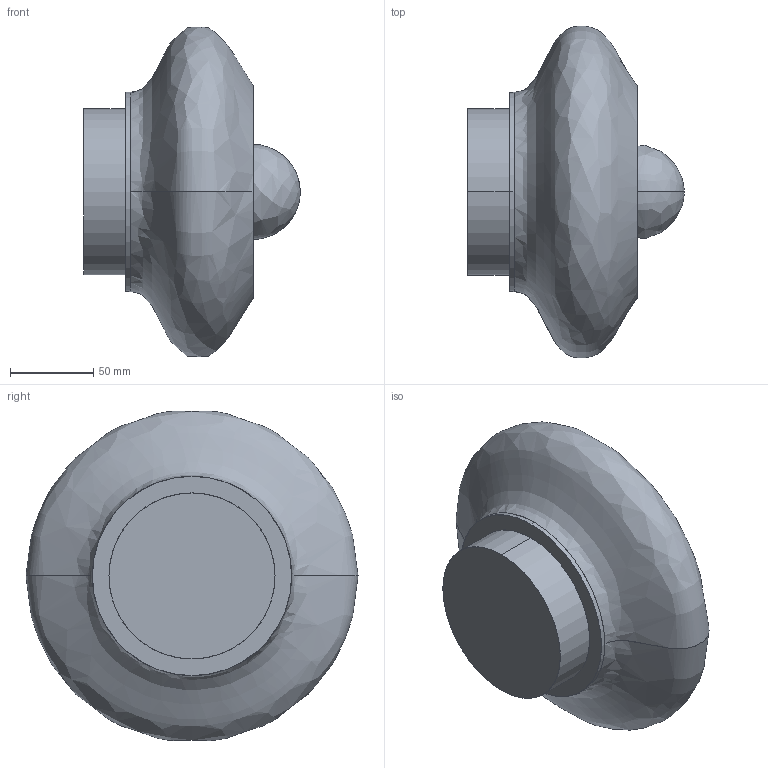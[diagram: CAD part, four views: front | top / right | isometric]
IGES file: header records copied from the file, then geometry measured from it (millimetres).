
Start section: SolidWorks IGES file using analytic representation for surfaces
Global section: file name: C:\Users\Agustin\Desktop\ARNOLD\SEPT 2025\2D-3D DEFINITIVO ONEDRIVE\2D-3D VITREE_A1346\VITREE_A1346.IGS; native system: SolidWorks 2018; preprocessor: SolidWorks 2018; author: Agustin; date: 250905.124304; units: millimetre
Bounding box: 130.5 x 199.99 x 198.54 mm (x, y, z)
Surface area: 208284.9 mm2 (no closed solid volume)
Topology: 0 solids, 0 shells, 31 faces, 920 edges, 918 vertices
Faces by surface type: bspline 19, revolution 12
